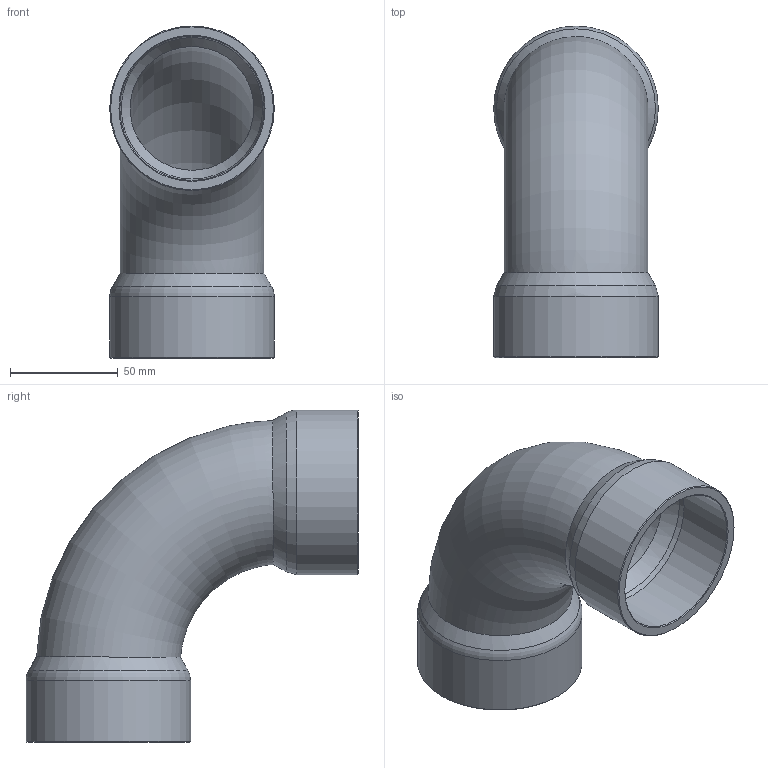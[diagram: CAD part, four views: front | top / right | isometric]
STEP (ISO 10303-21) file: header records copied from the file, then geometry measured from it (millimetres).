
FILE_DESCRIPTION((''),'2;1');
FILE_NAME('Z:\Technik\Management\Bouwmaten + markeringen\z-maattekeningen 3D\29000s\29000s_gem\29002A258_3d.stp','2020-05-26T11:29:21',('vdvijverd'),(''),'Autodesk Inventor 2009','Autodesk Inventor 2009','');
FILE_SCHEMA(('AUTOMOTIVE_DESIGN { 1 0 10303 214 1 1 1 1 }'));
Length unit declared in the file: millimetre
Products named in the file (1): 29002A258_3d
Bounding box: 76.33 x 153.97 x 153.97 mm (x, y, z)
Volume: 191891.6 mm3; surface area: 83925.4 mm2
Topology: 1 solids, 1 shells, 20 faces, 38 edges, 20 vertices
Faces by surface type: bspline 8, cone 6, torus 3, cylinder 2, plane 1
Full cylindrical faces by diameter (mm): 66.975 x1, 76.335 x1
Entity records: 734 total; most frequent: CARTESIAN_POINT 404, DIRECTION 58, ORIENTED_EDGE 40, EDGE_LOOP 40, AXIS2_PLACEMENT_3D 29, VERTEX_POINT 20, EDGE_CURVE 20, FACE_OUTER_BOUND 20
